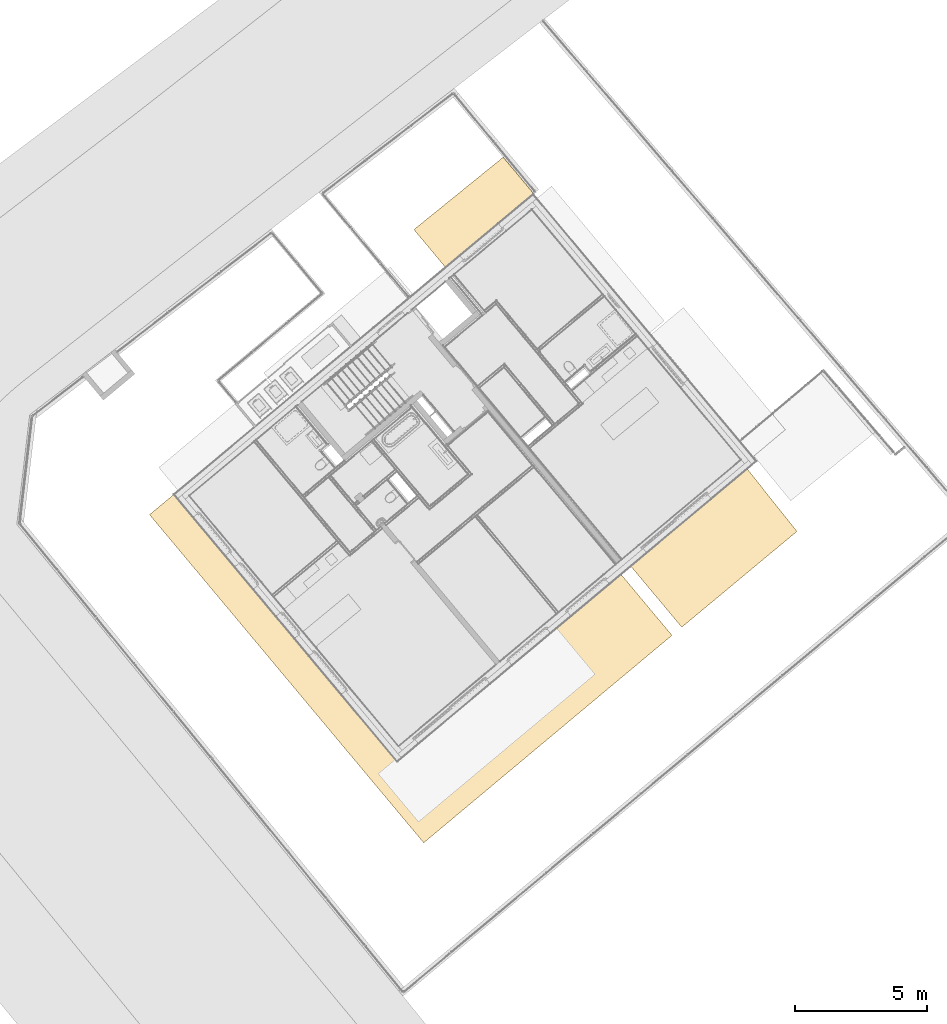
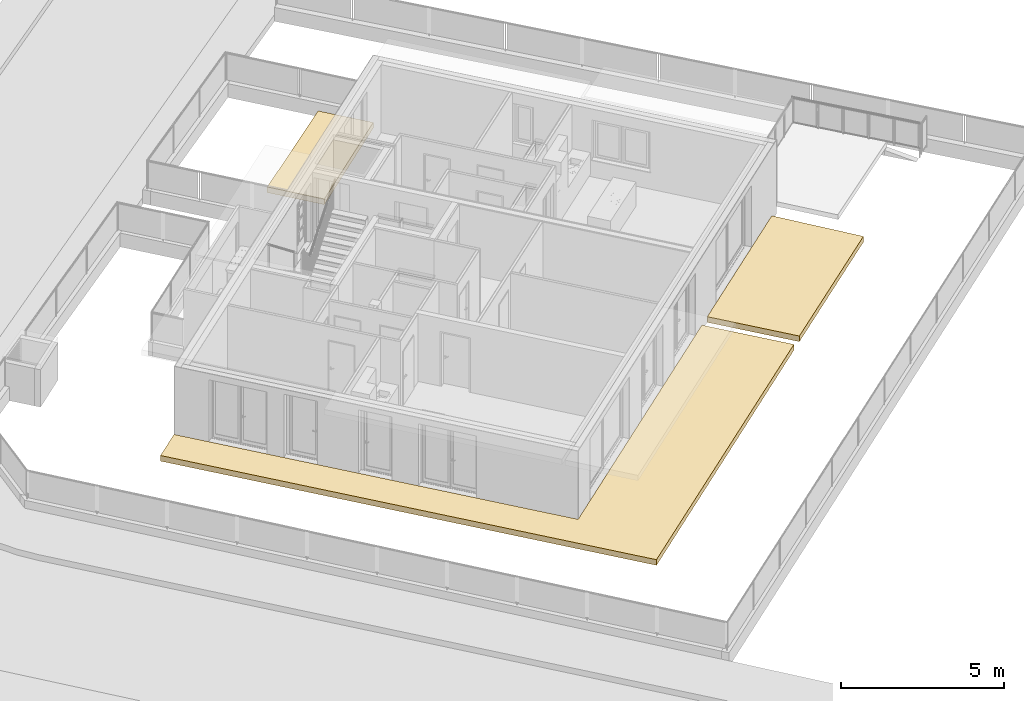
# One storey, part 65 of 75: 3 coverings.
"""IFC4 building model written with IfcOpenShell, lengths in metres."""

from ifc_helpers import new_model, entity, si_unit, converted_unit, derived_unit, direction, frame, origin_with_axes, place, context, subcontext, project, spatial, polygons, material, type_object, element, save


model = new_model("IFC4")

# Units and contexts
model_context = context("Model", 3, precision=1e-05, world=origin_with_axes(), true_north=direction((0.0, 1.0)))
body_context = subcontext(model_context, "Body", "Model", "MODEL_VIEW")
ifc_project = project(units=[si_unit("LENGTHUNIT", "METRE"), si_unit("AREAUNIT", "SQUARE_METRE"), si_unit("VOLUMEUNIT", "CUBIC_METRE"), converted_unit("PLANEANGLEUNIT", "DEGREE", entity("IfcPlaneAngleMeasure", 0.0174532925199), si_unit("PLANEANGLEUNIT", "RADIAN"), dimensions=[0, 0, 0, 0, 0, 0, 0]), converted_unit("TIMEUNIT", "Year", entity("IfcTimeMeasure", 31556926.0), si_unit("TIMEUNIT", "SECOND"), dimensions=[0, 0, 1, 0, 0, 0, 0]), si_unit("MASSUNIT", "GRAM", prefix="KILO"), si_unit("THERMODYNAMICTEMPERATUREUNIT", "DEGREE_CELSIUS"), si_unit("LUMINOUSINTENSITYUNIT", "LUMEN"), si_unit("ENERGYUNIT", "JOULE", prefix="MEGA"), derived_unit("THERMALCONDUCTANCEUNIT", [(si_unit("POWERUNIT", "WATT"), 1), (si_unit("LENGTHUNIT", "METRE"), -1), (si_unit("THERMODYNAMICTEMPERATUREUNIT", "KELVIN"), -1)]), derived_unit("SPECIFICHEATCAPACITYUNIT", [(si_unit("ENERGYUNIT", "JOULE"), 1), (si_unit("MASSUNIT", "GRAM", prefix="KILO"), -1), (si_unit("THERMODYNAMICTEMPERATUREUNIT", "KELVIN"), -1)]), derived_unit("MASSDENSITYUNIT", [(si_unit("MASSUNIT", "GRAM", prefix="KILO"), 1), (si_unit("VOLUMEUNIT", "CUBIC_METRE"), -1)])], contexts=[model_context])

# Site, building, storey, space
site_placement = place(None, frame((-0.00153261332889, -0.00661245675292, 0.0), z_axis=(0.0, 0.0, 1.0), x_axis=(1.0, 0.0, 0.0)))
site = spatial("IfcSite", under=ifc_project, at=site_placement, Name="Gelände", CompositionType="ELEMENT")
building_placement = place(site_placement, origin_with_axes())
building = spatial("IfcBuilding", under=site, at=building_placement, Name="Gebäude", CompositionType="ELEMENT")
storey_placement = place(building_placement, frame((0.0, 0.0, -0.22), z_axis=(0.0, 0.0, 1.0), x_axis=(1.0, 0.0, 0.0)))
storey = spatial("IfcBuildingStorey", under=building, at=storey_placement, Name="EG", CompositionType="ELEMENT", Elevation=-0.22)
space_1_placement = place(storey_placement, frame((-9.60444066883, 18.2484370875, 0.0), z_axis=(0.0, 0.0, 1.0), x_axis=(0.641209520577, -0.767365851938, 0.0)))
space_1 = spatial("IfcSpace", under=storey, at=space_1_placement, CompositionType="ELEMENT", PredefinedType="NOTDEFINED")

# Covering
ifc_material = material(Name="Platten")
covering_type = type_object("IfcCoveringType", Name="Platten 210", PredefinedType="NOTDEFINED")
covering_1_placement = place(space_1_placement, frame((0.0, 1.20068710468, 0.21), z_axis=(0.0, 0.0, 1.0), x_axis=(0.641209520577, 0.767365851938, 0.0)))
element("IfcCovering", 1, at=covering_1_placement, inside=space_1, type_object=covering_type, material=ifc_material, Name="Decke-005", PredefinedType="NOTDEFINED", context=body_context, shape_type="Tessellation", body=[
    polygons([(-0.921366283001, -0.769892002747, -0.21), (-0.921366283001, -0.769892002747, 0.0), (0.0, 0.0, 0.0), (0.0, 0.0, -0.21), (9.46793392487, -13.2032604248, -0.21), (9.46793392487, -13.2032604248, 0.0), (18.8770380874, -5.34102997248, 0.0), (16.9489500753, -3.03339278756, 0.0), (8.46573122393, -10.1313421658, 0.0), (8.46573122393, -10.1313421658, -0.21), (18.8770380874, -5.34102997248, -0.21), (16.9489500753, -3.03339278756, -0.21)], [[[1, 2, 3, 4]], [[5, 6, 2, 1]], [[7, 8, 9, 3, 2, 6]], [[4, 3, 9, 10]], [[11, 5, 1, 4, 10, 12]], [[11, 7, 6, 5]], [[12, 8, 7, 11]], [[10, 9, 8, 12]]], closed=True),
])

# Space
space_2_placement = place(storey_placement, frame((13.4528825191, 20.3252443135, 0.0), z_axis=(0.0, 0.0, 1.0), x_axis=(-0.766923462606, -0.641738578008, 0.0)))
space_2 = spatial("IfcSpace", under=storey, at=space_2_placement, CompositionType="ELEMENT", PredefinedType="NOTDEFINED")

# Coverings
covering_2_placement = place(space_2_placement, frame((6.28555558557, 1.62137725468e-08, 0.21), z_axis=(0.0, 0.0, 1.0), x_axis=(-0.766923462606, 0.641738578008, 0.0)))
element("IfcCovering", 2, at=covering_2_placement, inside=space_2, type_object=covering_type, material=ifc_material, Name="Decke-005", PredefinedType="NOTDEFINED", context=body_context, shape_type="Tessellation", body=[
    polygons([(6.29745851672, 1.32507947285, -0.21), (5.44170004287, 2.39914892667, -0.21), (5.44170004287, 2.39914892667, -0.0020668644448), (5.20135821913, 2.70080391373, 0.0), (6.29745851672, 1.32507947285, 0.0), (5.36804167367, 1.8907825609, -0.21), (5.40603188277, 2.08656709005, -0.21), (5.43278302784, 2.28420113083, -0.21), (1.93072055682, -2.30799816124, -0.21), (0.0, 0.0, -0.21), (4.41541613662, 3.68724624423, -0.21), (5.01847482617, 2.93034235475, -0.21), (5.02564075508, 2.85428504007, -0.21), (5.03209902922, 2.67896451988, -0.21), (5.02853793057, 2.50356123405, -0.21), (5.01496907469, 2.32864731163, -0.21), (4.99143672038, 2.15479328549, -0.21), (4.97455909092, 2.06781353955, -0.21), (5.30774161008, 1.66203871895, -0.21), (5.3189363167, 1.69748615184, -0.21), (5.43278302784, 2.28420113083, -0.0311248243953), (5.3189363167, 1.69748615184, -0.198663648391), (4.99143672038, 2.15479328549, -0.185162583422), (5.01496907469, 2.32864731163, -0.138387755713), (5.02853793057, 2.50356123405, -0.0941707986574), (5.03209902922, 2.67896451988, -0.0526559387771), (5.02564075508, 2.85428504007, -0.0139785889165), (5.01919953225, 2.92265051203, 0.0), (5.40603188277, 2.08656709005, -0.0842975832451), (5.36804167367, 1.8907825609, -0.140204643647), (1.93072055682, -2.30799816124, 0.0), (5.01847482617, 2.93034235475, 0.0), (4.41541613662, 3.68724624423, 0.0), (0.0, 0.0, 0.0)], [[[1, 2, 3, 4, 5]], [[6, 7, 8, 2, 1, 9, 10, 11, 12, 13, 14, 15, 16, 17, 18, 19, 20]], [[8, 21, 3, 2]], [[22, 19, 18, 23, 24, 25, 26, 27, 28, 4, 3, 21, 29, 30]], [[31, 5, 4, 28, 32, 33, 34]], [[1, 5, 31, 9]], [[30, 29, 7, 6]], [[29, 21, 8, 7]], [[9, 31, 34, 10]], [[10, 34, 33, 11]], [[11, 33, 32, 12]], [[28, 27, 13, 12, 32]], [[27, 26, 14, 13]], [[26, 25, 15, 14]], [[25, 24, 16, 15]], [[24, 23, 17, 16]], [[17, 23, 18]], [[19, 22, 20]], [[22, 30, 6, 20]]], closed=True),
])
covering_3_placement = place(storey_placement, frame((0.411191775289, 29.0514209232, 0.21), z_axis=(0.0, 0.0, 1.0), x_axis=(1.0, 0.0, 0.0)))
element("IfcCovering", 3, at=covering_3_placement, inside=storey, type_object=covering_type, material=ifc_material, Name="Decke-005", PredefinedType="NOTDEFINED", context=body_context, shape_type="Tessellation", body=[
    polygons([(0.0, 0.0, 0.0), (0.0, 0.0, -0.21), (1.19760113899, -1.43322609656, -0.21), (1.19760113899, -1.43322609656, 0.0), (3.38644480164, 2.7448147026, 0.0), (3.38644480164, 2.7448147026, -0.21), (4.54219626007, 1.36152822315, -0.21), (4.54219626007, 1.36152822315, 0.0)], [[[1, 2, 3, 4]], [[5, 6, 2, 1]], [[3, 2, 6, 7]], [[4, 3, 7, 8]], [[5, 1, 4, 8]], [[8, 7, 6, 5]]], closed=True),
])

save(model, "model.ifc")
